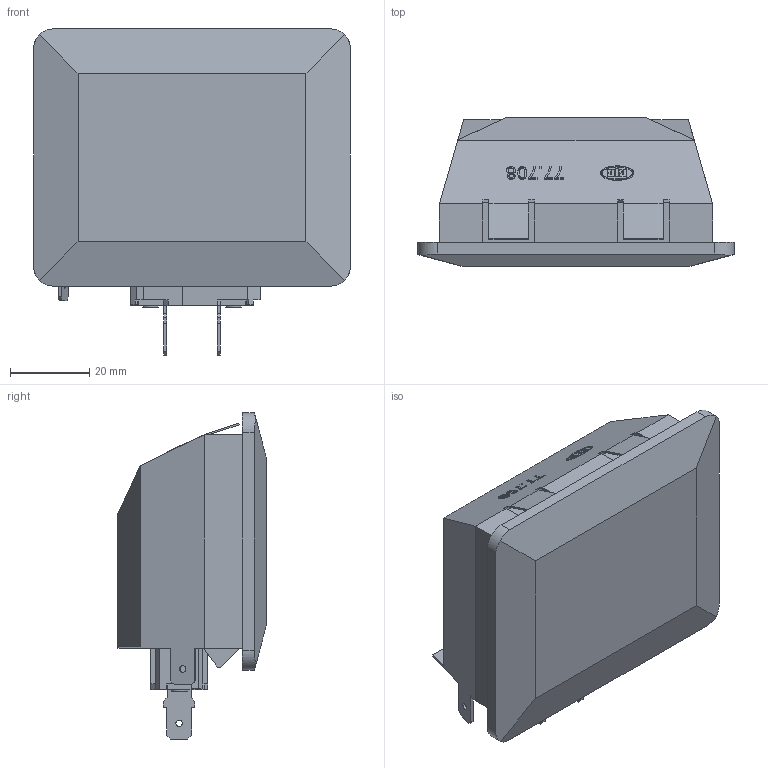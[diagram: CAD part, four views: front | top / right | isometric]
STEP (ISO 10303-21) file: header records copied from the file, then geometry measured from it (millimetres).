
FILE_DESCRIPTION((' '),'1');
FILE_NAME('00ZYZ14Y03.stp','2011-09-02 T10:23:28',(''),(''),'STEP Interface 2011 Sp1 by CT CoreTechnologie','3D_Evolution2011 Sp1 by CT CoreTechnologie','');
FILE_SCHEMA(('AP203_CONFIGURATION_CONTROLLED_3D_DESIGN_OF_MECHANICAL_PARTS_AND_ASSEMBLIES_MIM_LF'));
Length unit declared in the file: millimetre
Products named in the file (5): Assem1; 01C-20P-05; 00Z-Z0H-03; 00Z-Z0Y-0B; 00C-J03-05
Assembly tree (4 placements, depth 2):
  Assem1
    01C-20P-05
    00Z-Z0H-03
    00Z-Z0Y-0B
    00C-J03-05
Bounding box: 80 x 37.5 x 82.43 mm (x, y, z)
Volume: 42955.6 mm3; surface area: 41447.3 mm2
Topology: 4 solids, 4 shells, 478 faces, 1298 edges, 850 vertices
Faces by surface type: plane 330, cylinder 98, bspline 50
Entity records: 20679 total; most frequent: CARTESIAN_POINT 4183, ORIENTED_EDGE 2588, DIRECTION 2396, EDGE_CURVE 1294, VECTOR 970, LINE 970, VERTEX_POINT 850, AXIS2_PLACEMENT_3D 713
